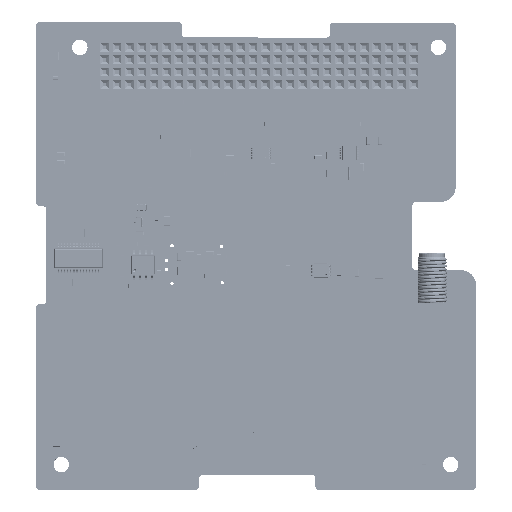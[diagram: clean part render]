
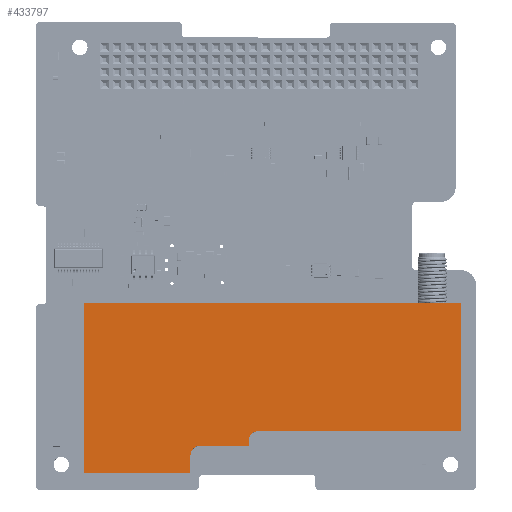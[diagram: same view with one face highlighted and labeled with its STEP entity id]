
A CAD part, top view. The second image highlights one B-rep face of the part: STEP entity #433797.
In plain terms, the highlighted planar face has unit normal (0, 0, 1).
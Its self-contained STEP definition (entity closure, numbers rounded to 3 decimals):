
#987 = DIRECTION ( 'NONE',  ( 0., 1., 0. ) ) ;
#4571 = VECTOR ( 'NONE', #987, 1000. ) ;
#5519 = CARTESIAN_POINT ( 'NONE',  ( 84.963, 15.831, 13. ) ) ;
#18582 = LINE ( 'NONE', #113807, #304426 ) ;
#30563 = ORIENTED_EDGE ( 'NONE', *, *, #506300, .T. ) ;
#65047 = EDGE_CURVE ( 'NONE', #283783, #351322, #531036, .T. ) ;
#75939 = VECTOR ( 'NONE', #247227, 1000. ) ;
#86838 = CARTESIAN_POINT ( 'NONE',  ( 84.963, 12.167, 13. ) ) ;
#89655 = CIRCLE ( 'NONE', #376239, 2. ) ;
#113807 = CARTESIAN_POINT ( 'NONE',  ( 63.068, 12.167, 13. ) ) ;
#135873 = VERTEX_POINT ( 'NONE', #662687 ) ;
#140788 = EDGE_CURVE ( 'NONE', #351322, #687311, #18582, .T. ) ;
#142335 = CARTESIAN_POINT ( 'NONE',  ( 86.963, 17.831, 13. ) ) ;
#144685 = CARTESIAN_POINT ( 'NONE',  ( 96.901, 18.829, 13. ) ) ;
#145410 = EDGE_CURVE ( 'NONE', #230833, #448332, #606540, .T. ) ;
#146131 = AXIS2_PLACEMENT_3D ( 'NONE', #153126, #552453, #210459 ) ;
#149285 = DIRECTION ( 'NONE',  ( 0., 0., -1. ) ) ;
#153126 = CARTESIAN_POINT ( 'NONE',  ( 86.963, 15.831, 13. ) ) ;
#154432 = EDGE_CURVE ( 'NONE', #203811, #500161, #379997, .T. ) ;
#170662 = CARTESIAN_POINT ( 'NONE',  ( 140.526, 20.829, 13. ) ) ;
#171220 = CARTESIAN_POINT ( 'NONE',  ( 86.963, 15.831, 13. ) ) ;
#193883 = EDGE_CURVE ( 'NONE', #290249, #135873, #89655, .T. ) ;
#203486 = VECTOR ( 'NONE', #534233, 1000. ) ;
#203811 = VERTEX_POINT ( 'NONE', #414628 ) ;
#209283 = LINE ( 'NONE', #408916, #629002 ) ;
#210459 = DIRECTION ( 'NONE',  ( 0., -1., 0. ) ) ;
#213829 = DIRECTION ( 'NONE',  ( 1., 0., 0. ) ) ;
#228580 = PLANE ( 'NONE',  #546468 ) ;
#230833 = VERTEX_POINT ( 'NONE', #5519 ) ;
#237429 = LINE ( 'NONE', #416813, #541045 ) ;
#244539 = DIRECTION ( 'NONE',  ( 0., 1., 0. ) ) ;
#247227 = DIRECTION ( 'NONE',  ( 0., -1., 0. ) ) ;
#249538 = ORIENTED_EDGE ( 'NONE', *, *, #193883, .T. ) ;
#277489 = CARTESIAN_POINT ( 'NONE',  ( 96.901, 17.831, 13. ) ) ;
#283783 = VERTEX_POINT ( 'NONE', #509877 ) ;
#286179 = DIRECTION ( 'NONE',  ( 0., 0., 1. ) ) ;
#290249 = VERTEX_POINT ( 'NONE', #144685 ) ;
#295016 = LINE ( 'NONE', #498354, #429022 ) ;
#300121 = ORIENTED_EDGE ( 'NONE', *, *, #448771, .T. ) ;
#304426 = VECTOR ( 'NONE', #570338, 1000. ) ;
#315880 = ORIENTED_EDGE ( 'NONE', *, *, #140788, .T. ) ;
#323489 = LINE ( 'NONE', #396733, #609099 ) ;
#330234 = CARTESIAN_POINT ( 'NONE',  ( 140.526, 47.206, 13. ) ) ;
#351322 = VERTEX_POINT ( 'NONE', #394372 ) ;
#366651 = ORIENTED_EDGE ( 'NONE', *, *, #145410, .T. ) ;
#376239 = AXIS2_PLACEMENT_3D ( 'NONE', #491157, #149285, #548628 ) ;
#376544 = ORIENTED_EDGE ( 'NONE', *, *, #431168, .T. ) ;
#379997 = LINE ( 'NONE', #170662, #4571 ) ;
#394372 = CARTESIAN_POINT ( 'NONE',  ( 63.068, 12.167, 13. ) ) ;
#396733 = CARTESIAN_POINT ( 'NONE',  ( 84.963, 12.167, 13. ) ) ;
#408916 = CARTESIAN_POINT ( 'NONE',  ( 86.963, 17.831, 13. ) ) ;
#414628 = CARTESIAN_POINT ( 'NONE',  ( 140.526, 20.829, 13. ) ) ;
#416813 = CARTESIAN_POINT ( 'NONE',  ( 96.901, 17.831, 13. ) ) ;
#426703 = EDGE_CURVE ( 'NONE', #135873, #203811, #295016, .T. ) ;
#429022 = VECTOR ( 'NONE', #213829, 1000. ) ;
#431168 = EDGE_CURVE ( 'NONE', #500161, #283783, #507142, .T. ) ;
#433797 = ADVANCED_FACE ( 'NONE', ( #563885 ), #228580, .T. ) ;
#448332 = VERTEX_POINT ( 'NONE', #142335 ) ;
#448771 = EDGE_CURVE ( 'NONE', #448332, #478252, #209283, .T. ) ;
#453946 = DIRECTION ( 'NONE',  ( 0., 1., 0. ) ) ;
#468167 = ORIENTED_EDGE ( 'NONE', *, *, #426703, .T. ) ;
#476968 = CARTESIAN_POINT ( 'NONE',  ( 140.526, 47.206, 13. ) ) ;
#478252 = VERTEX_POINT ( 'NONE', #277489 ) ;
#478455 = EDGE_CURVE ( 'NONE', #478252, #290249, #237429, .T. ) ;
#491157 = CARTESIAN_POINT ( 'NONE',  ( 98.901, 18.829, 13. ) ) ;
#498354 = CARTESIAN_POINT ( 'NONE',  ( 98.901, 20.829, 13. ) ) ;
#500161 = VERTEX_POINT ( 'NONE', #330234 ) ;
#506300 = EDGE_CURVE ( 'NONE', #687311, #230833, #323489, .T. ) ;
#507142 = LINE ( 'NONE', #476968, #203486 ) ;
#509877 = CARTESIAN_POINT ( 'NONE',  ( 63.068, 47.206, 13. ) ) ;
#531036 = LINE ( 'NONE', #531499, #75939 ) ;
#531499 = CARTESIAN_POINT ( 'NONE',  ( 63.068, 47.206, 13. ) ) ;
#534233 = DIRECTION ( 'NONE',  ( -1., 0., 0. ) ) ;
#541045 = VECTOR ( 'NONE', #244539, 1000. ) ;
#546468 = AXIS2_PLACEMENT_3D ( 'NONE', #171220, #286179, #685247 ) ;
#548628 = DIRECTION ( 'NONE',  ( 0., -1., 0. ) ) ;
#552453 = DIRECTION ( 'NONE',  ( 0., 0., -1. ) ) ;
#563885 = FACE_OUTER_BOUND ( 'NONE', #662856, .T. ) ;
#565739 = ORIENTED_EDGE ( 'NONE', *, *, #154432, .T. ) ;
#570338 = DIRECTION ( 'NONE',  ( 1., 0., 0. ) ) ;
#606540 = CIRCLE ( 'NONE', #146131, 2. ) ;
#609099 = VECTOR ( 'NONE', #453946, 1000. ) ;
#629002 = VECTOR ( 'NONE', #693211, 1000. ) ;
#654093 = ORIENTED_EDGE ( 'NONE', *, *, #65047, .T. ) ;
#661154 = ORIENTED_EDGE ( 'NONE', *, *, #478455, .T. ) ;
#662687 = CARTESIAN_POINT ( 'NONE',  ( 98.901, 20.829, 13. ) ) ;
#662856 = EDGE_LOOP ( 'NONE', ( #468167, #565739, #376544, #654093, #315880, #30563, #366651, #300121, #661154, #249538 ) ) ;
#685247 = DIRECTION ( 'NONE',  ( 0., -1., 0. ) ) ;
#687311 = VERTEX_POINT ( 'NONE', #86838 ) ;
#693211 = DIRECTION ( 'NONE',  ( 1., 0., 0. ) ) ;
